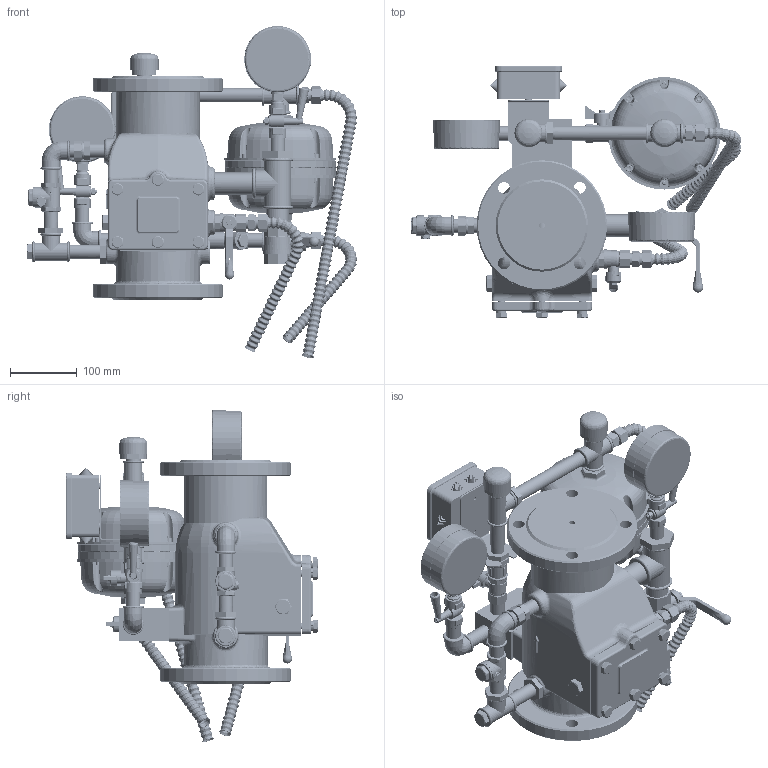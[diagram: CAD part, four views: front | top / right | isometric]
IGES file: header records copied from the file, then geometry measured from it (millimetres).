
Start section: File generated by T-FLEX CAD Version (null)
Global section: file name: 80     .igs; native system: T-FLEX CAD; date: 211013.150645; units: millimetre
Bounding box: 493.99 x 376.4 x 496.25 mm (x, y, z)
Volume: 4618105.8 mm3; surface area: 1135854.2 mm2
Topology: 37 solids, 67 shells, 5084 faces, 12217 edges, 7171 vertices
Faces by surface type: cylinder 1661, plane 1507, bspline 791, revolution 541, cone 459, sphere 125
Full cylindrical faces by diameter (mm): 15 x1
